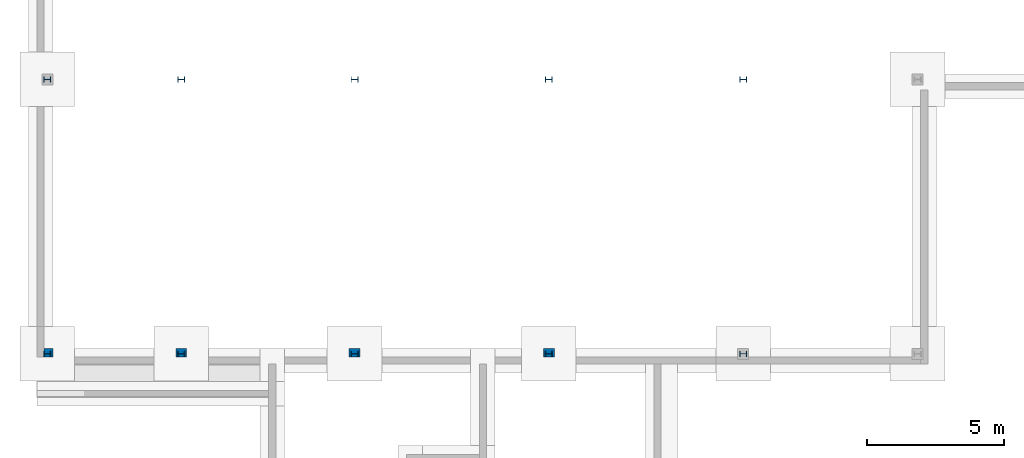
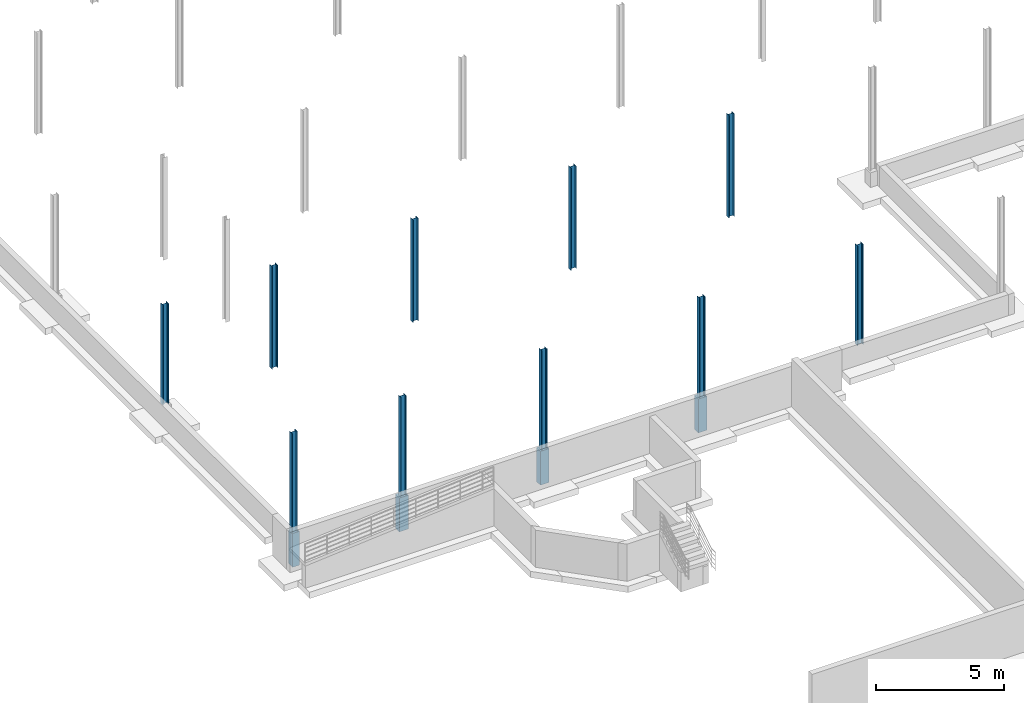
# One storey, part 2 of 11: 14 columns.
"""IFC2X3 building model written with IfcOpenShell, lengths in metres."""

from ifc_helpers import new_model, entity, si_unit, converted_unit, frame, frame_2d, origin, place, context, project, spatial, polyline, circle_curve, parameter, trimmed, segment, composite_curve, rectangle, outline, extrude, clip, bounded_halfspace, source, transform, mapped, material, type_object, type_shapes, element, save


model = new_model("IFC2X3")

# Units and contexts
model_context = context("Model", 3, precision=1e-09, world=origin())
plan_context = context("Plan", 3, precision=1e-09, world=origin())
ifc_project = project(units=[si_unit("LENGTHUNIT", "METRE"), si_unit("AREAUNIT", "SQUARE_METRE"), si_unit("VOLUMEUNIT", "CUBIC_METRE"), converted_unit("PLANEANGLEUNIT", "DEGREE", entity("IfcRatioMeasure", 0.01745329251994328), si_unit("PLANEANGLEUNIT", "RADIAN"), dimensions=[0, 0, 0, 0, 0, 0, 0]), si_unit("TIMEUNIT", "SECOND")], contexts=[model_context, plan_context])

# Site, building, storey
site_placement = place(None, origin())
site = spatial("IfcSite", under=ifc_project, at=site_placement, Name="Default", CompositionType="ELEMENT")
building_placement = place(site_placement, origin())
building = spatial("IfcBuilding", under=site, at=building_placement, CompositionType="ELEMENT")
storey_placement = place(building_placement, frame((0.0, 0.0, -1.0)))
storey = spatial("IfcBuildingStorey", under=building, at=storey_placement, Name="TOF Footing", CompositionType="ELEMENT", Elevation=-1.000000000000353)

# Columns
ifc_material_1 = material(Name="Metal - Steel - 345 MPa")
column_type_1 = type_object("IfcColumnType", Name="W250X67", PredefinedType="COLUMN")
shared_shape_1 = source(origin(), model_context, "Body", "SweptSolid", [
    extrude(outline(composite_curve([segment(polyline([(-0.102, -0.1285), (0.102, -0.1285)]), True, "CONTINUOUS"), segment(polyline([(0.102, -0.1285), (0.102, -0.1128)]), True, "CONTINUOUS"), segment(polyline([(0.102, -0.1128), (0.02174999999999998, -0.1128)]), True, "CONTINUOUS"), segment(trimmed(circle_curve(frame_2d((0.02174999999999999, -0.09549999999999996), x_axis=(-1.0, 0.0)), 0.0173), [parameter(4.071109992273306e-13)], [parameter(90.00000000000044)], True, "PARAMETER"), False, "CONTINUOUS"), segment(polyline([(0.004449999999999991, -0.09549999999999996), (0.004449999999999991, 0.09549999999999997)]), True, "CONTINUOUS"), segment(trimmed(circle_curve(frame_2d((0.02174999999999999, 0.09549999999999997), x_axis=(-1.0, 0.0)), 0.0173), [parameter(270.0000000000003)], [parameter(3.562221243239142e-13)], True, "PARAMETER"), False, "CONTINUOUS"), segment(polyline([(0.02174999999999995, 0.1128), (0.102, 0.1128)]), True, "CONTINUOUS"), segment(polyline([(0.102, 0.1128), (0.102, 0.1285)]), True, "CONTINUOUS"), segment(polyline([(0.102, 0.1285), (-0.102, 0.1285)]), True, "CONTINUOUS"), segment(polyline([(-0.102, 0.1285), (-0.102, 0.1128)]), True, "CONTINUOUS"), segment(polyline([(-0.102, 0.1128), (-0.02174999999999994, 0.1128)]), True, "CONTINUOUS"), segment(trimmed(circle_curve(frame_2d((-0.02175000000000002, 0.09549999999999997), x_axis=(-1.0, 0.0)), 0.0173), [parameter(179.9999999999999)], [parameter(269.9999999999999)], True, "PARAMETER"), False, "CONTINUOUS"), segment(polyline([(-0.004450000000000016, 0.09550000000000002), (-0.004450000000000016, -0.09549999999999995)]), True, "CONTINUOUS"), segment(trimmed(circle_curve(frame_2d((-0.02175000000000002, -0.09549999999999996), x_axis=(-1.0, 0.0)), 0.0173), [parameter(90.00000000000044)], [parameter(180.0000000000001)], True, "PARAMETER"), False, "CONTINUOUS"), segment(polyline([(-0.02175000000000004, -0.1128), (-0.102, -0.1128)]), True, "CONTINUOUS"), segment(polyline([(-0.102, -0.1128), (-0.102, -0.1285)]), True, "CONTINUOUS")], self_intersect=False)), frame((0.0, 0.0, -0.305000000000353), z_axis=(0.0, 0.0, 1.0), x_axis=(-1.0, 0.0, 0.0)), (0.0, 0.0, 1.0), 4.87500000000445),
])
type_shapes(column_type_1, [shared_shape_1])
for number, where, z_axis, x_axis in (
    (1, (-47.0, 10.04000000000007, 1.0), (0.0, 0.0, 1.0), (0.0, 1.0, 0.0)),
    (2, (-33.55000000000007, 10.04000000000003, 1.0), (0.0, 0.0, 1.0), (0.0, 1.0, 0.0)),
    (3, (-40.66000000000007, 10.04000000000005, 1.0), (0.0, 0.0, 1.0), (0.0, 1.0, 0.0)),
    (4, (-26.44000000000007, 10.04, 1.0), (0.0, 0.0, 1.0), (0.0, 1.0, 0.0)),
):
    element("IfcColumn", number, at=place(storey_placement, frame(where, z_axis=z_axis, x_axis=x_axis)), inside=storey, type_object=column_type_1, material=ifc_material_1, Name="M_W-Wide Flange-Column:W250X67:W250X67", ObjectType="W250X67", context=model_context, shape_type="MappedRepresentation", body=[
        mapped(shared_shape_1, transform((0.0, 0.0, 0.0), scale=1.0)),
    ])
column_type_2 = type_object("IfcColumnType", Name="W250X67", PredefinedType="COLUMN")
shared_shape_2 = source(origin(), model_context, "Body", "SweptSolid", [
    extrude(outline(composite_curve([segment(polyline([(-0.102, -0.1285), (0.102, -0.1285)]), True, "CONTINUOUS"), segment(polyline([(0.102, -0.1285), (0.102, -0.1128)]), True, "CONTINUOUS"), segment(polyline([(0.102, -0.1128), (0.02174999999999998, -0.1128)]), True, "CONTINUOUS"), segment(trimmed(circle_curve(frame_2d((0.02174999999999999, -0.09549999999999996), x_axis=(-1.0, 0.0)), 0.0173), [parameter(4.071109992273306e-13)], [parameter(90.00000000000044)], True, "PARAMETER"), False, "CONTINUOUS"), segment(polyline([(0.004449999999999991, -0.09549999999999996), (0.004449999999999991, 0.09549999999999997)]), True, "CONTINUOUS"), segment(trimmed(circle_curve(frame_2d((0.02174999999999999, 0.09549999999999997), x_axis=(-1.0, 0.0)), 0.0173), [parameter(270.0000000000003)], [parameter(3.562221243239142e-13)], True, "PARAMETER"), False, "CONTINUOUS"), segment(polyline([(0.02174999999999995, 0.1128), (0.102, 0.1128)]), True, "CONTINUOUS"), segment(polyline([(0.102, 0.1128), (0.102, 0.1285)]), True, "CONTINUOUS"), segment(polyline([(0.102, 0.1285), (-0.102, 0.1285)]), True, "CONTINUOUS"), segment(polyline([(-0.102, 0.1285), (-0.102, 0.1128)]), True, "CONTINUOUS"), segment(polyline([(-0.102, 0.1128), (-0.02174999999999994, 0.1128)]), True, "CONTINUOUS"), segment(trimmed(circle_curve(frame_2d((-0.02175000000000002, 0.09549999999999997), x_axis=(-1.0, 0.0)), 0.0173), [parameter(179.9999999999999)], [parameter(269.9999999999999)], True, "PARAMETER"), False, "CONTINUOUS"), segment(polyline([(-0.004450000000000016, 0.09550000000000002), (-0.004450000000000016, -0.09549999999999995)]), True, "CONTINUOUS"), segment(trimmed(circle_curve(frame_2d((-0.02175000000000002, -0.09549999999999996), x_axis=(-1.0, 0.0)), 0.0173), [parameter(90.00000000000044)], [parameter(180.0000000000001)], True, "PARAMETER"), False, "CONTINUOUS"), segment(polyline([(-0.02175000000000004, -0.1128), (-0.102, -0.1128)]), True, "CONTINUOUS"), segment(polyline([(-0.102, -0.1128), (-0.102, -0.1285)]), True, "CONTINUOUS")], self_intersect=False)), frame((0.0, 0.0, -0.305000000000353), z_axis=(0.0, 0.0, 1.0), x_axis=(-1.0, 0.0, 0.0)), (0.0, 0.0, 1.0), 4.755000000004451),
])
type_shapes(column_type_2, [shared_shape_2])
for number, where, z_axis, x_axis in (
    (5, (-51.90000000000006, 10.04000000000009, 1.0), (0.0, 0.0, 1.0), (0.0, 1.0, 0.0)),
    (6, (-40.66000000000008, 0.0, 1.0), (0.0, 0.0, 1.0), (0.0, 1.0, 0.0)),
    (7, (-47.0, 0.0, 1.0), (0.0, 0.0, 1.0), (0.0, 1.0, 0.0)),
    (8, (-51.90000000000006, 0.0, 1.0), (0.0, 0.0, 1.0), (0.0, 1.0, 0.0)),
    (9, (-33.55000000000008, 0.0, 1.0), (0.0, 0.0, 1.0), (0.0, 1.0, 0.0)),
    (10, (-26.44000000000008, 0.0, 1.0), (0.0, 0.0, 1.0), (0.0, 1.0, 0.0)),
):
    element("IfcColumn", number, at=place(storey_placement, frame(where, z_axis=z_axis, x_axis=x_axis)), inside=storey, type_object=column_type_2, material=ifc_material_1, Name="M_W-Wide Flange-Column:W250X67:W250X67", ObjectType="W250X67", context=model_context, shape_type="MappedRepresentation", body=[
        mapped(shared_shape_2, transform((0.0, 0.0, 0.0), scale=1.0)),
    ])
ifc_material_2 = material(Name="Concrete - Cast-in-Place Concrete")
column_type_3 = type_object("IfcColumnType", Name="400 x 400mm", PredefinedType="COLUMN")
shared_shape_3 = source(origin(), model_context, "Body", "Clipping", [
    clip(extrude(rectangle(XDim=0.3999999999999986, YDim=0.3160000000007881, at=frame_2d((-33.55000000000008, 0.0419999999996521), x_axis=(1.0, 0.0))), origin(), (0.0, 0.0, 1.0), 1.61), bounded_halfspace(frame((-33.75000000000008, -0.1160000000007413, -1.915000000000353), z_axis=(0.0, 1.0, 0.0), x_axis=(-1.0, 0.0, 0.0)), True, frame((-33.75000000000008, -0.1160000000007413, -1.915000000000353), z_axis=(0.0, 1.0, 0.0), x_axis=(-1.0, 0.0, 0.0)), polyline([(0.0, 0.0), (0.0, 1.61), (-0.3999999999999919, 1.61), (-0.399999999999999, 0.0), (0.0, 0.0)]))),
])
type_shapes(column_type_3, [shared_shape_3])
column_1_placement = place(storey_placement, frame((0.0, 0.0, -0.9149999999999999)))
element("IfcColumn", 11, at=column_1_placement, inside=storey, type_object=column_type_3, material=ifc_material_2, Name="M_Concrete-Rectangular-Column:400 x 400mm:400 x 400mm", ObjectType="400 x 400mm", context=model_context, shape_type="MappedRepresentation", body=[
    mapped(shared_shape_3, transform((0.0, 0.0, 0.0), scale=1.0)),
])
column_type_4 = type_object("IfcColumnType", Name="400 x 400mm", PredefinedType="COLUMN")
shared_shape_4 = source(origin(), model_context, "Body", "Clipping", [
    clip(extrude(rectangle(XDim=0.4000000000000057, YDim=0.3160000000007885, at=frame_2d((-47.0, 0.04199999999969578), x_axis=(1.0, 0.0))), origin(), (0.0, 0.0, 1.0), 1.61), bounded_halfspace(frame((-47.2, -0.1160000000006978, -1.915000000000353), z_axis=(0.0, 1.0, 0.0), x_axis=(-1.0, 0.0, 0.0)), True, frame((-47.2, -0.1160000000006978, -1.915000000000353), z_axis=(0.0, 1.0, 0.0), x_axis=(-1.0, 0.0, 0.0)), polyline([(0.0, 0.0), (0.0, 1.61), (-0.3999999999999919, 1.61), (-0.4000000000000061, 0.0), (0.0, 0.0)]))),
])
type_shapes(column_type_4, [shared_shape_4])
column_2_placement = place(storey_placement, frame((0.0, 0.0, -0.9149999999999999)))
element("IfcColumn", 12, at=column_2_placement, inside=storey, type_object=column_type_4, material=ifc_material_2, Name="M_Concrete-Rectangular-Column:400 x 400mm:400 x 400mm", ObjectType="400 x 400mm", context=model_context, shape_type="MappedRepresentation", body=[
    mapped(shared_shape_4, transform((0.0, 0.0, 0.0), scale=1.0)),
])
column_type_5 = type_object("IfcColumnType", Name="400 x 400mm", PredefinedType="COLUMN")
shared_shape_5 = source(origin(), model_context, "Body", "Clipping", [
    clip(extrude(rectangle(XDim=0.4000000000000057, YDim=0.3160000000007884, at=frame_2d((-40.66000000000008, 0.04199999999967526), x_axis=(1.0, 0.0))), origin(), (0.0, 0.0, 1.0), 1.61), bounded_halfspace(frame((-40.86000000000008, -0.1160000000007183, -1.915000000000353), z_axis=(0.0, 1.0, 0.0), x_axis=(-1.0, 0.0, 0.0)), True, frame((-40.86000000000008, -0.1160000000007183, -1.915000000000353), z_axis=(0.0, 1.0, 0.0), x_axis=(-1.0, 0.0, 0.0)), polyline([(0.0, 0.0), (0.0, 1.61), (-0.399999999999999, 1.61), (-0.4000000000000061, 0.0), (0.0, 0.0)]))),
])
type_shapes(column_type_5, [shared_shape_5])
column_3_placement = place(storey_placement, frame((0.0, 0.0, -0.9149999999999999)))
element("IfcColumn", 13, at=column_3_placement, inside=storey, type_object=column_type_5, material=ifc_material_2, Name="M_Concrete-Rectangular-Column:400 x 400mm:400 x 400mm", ObjectType="400 x 400mm", context=model_context, shape_type="MappedRepresentation", body=[
    mapped(shared_shape_5, transform((0.0, 0.0, 0.0), scale=1.0)),
])
column_type_6 = type_object("IfcColumnType", Name="400 x 400mm", PredefinedType="COLUMN")
shared_shape_6 = source(origin(), model_context, "Body", "Clipping", [
    clip(clip(extrude(rectangle(XDim=0.3160000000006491, YDim=0.3160000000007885, at=frame_2d((-51.85800000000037, 0.04199999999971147), x_axis=(1.0, 0.0))), origin(), (0.0, 0.0, 1.0), 1.61), bounded_halfspace(frame((-52.0160000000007, 0.2000000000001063, -1.915000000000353), z_axis=(1.0, 0.0, 0.0), x_axis=(0.0, 1.0, 0.0)), True, frame((-52.0160000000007, 0.2000000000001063, -1.915000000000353), z_axis=(1.0, 0.0, 0.0), x_axis=(0.0, 1.0, 0.0)), polyline([(0.0, 0.0), (0.0, 1.61), (-0.3160000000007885, 1.61), (-0.3160000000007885, 0.0), (0.0, 0.0)]))), bounded_halfspace(frame((-52.0160000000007, -0.1160000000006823, -1.915000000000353), z_axis=(0.0, 1.0, 0.0), x_axis=(-1.0, 0.0, 0.0)), True, frame((-52.0160000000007, -0.1160000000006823, -1.915000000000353), z_axis=(0.0, 1.0, 0.0), x_axis=(-1.0, 0.0, 0.0)), polyline([(0.0, 0.0), (0.0, 1.61), (-0.3160000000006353, 1.61), (-0.3160000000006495, 0.0), (0.0, 0.0)]))),
])
type_shapes(column_type_6, [shared_shape_6])
column_4_placement = place(storey_placement, frame((0.0, 0.0, -0.9149999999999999)))
element("IfcColumn", 14, at=column_4_placement, inside=storey, type_object=column_type_6, material=ifc_material_2, Name="M_Concrete-Rectangular-Column:400 x 400mm:400 x 400mm", ObjectType="400 x 400mm", context=model_context, shape_type="MappedRepresentation", body=[
    mapped(shared_shape_6, transform((0.0, 0.0, 0.0), scale=1.0)),
])

save(model, "model.ifc")
